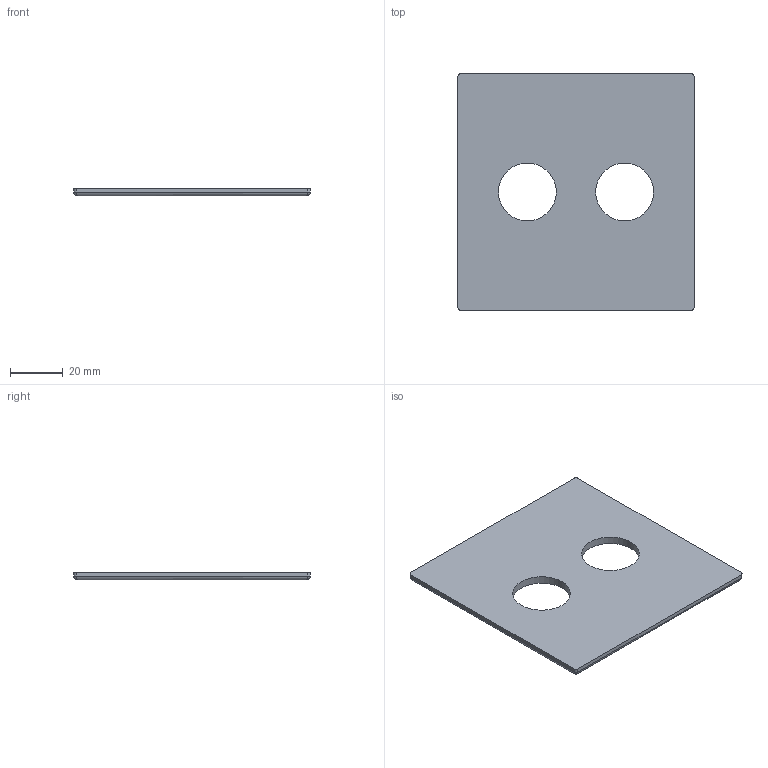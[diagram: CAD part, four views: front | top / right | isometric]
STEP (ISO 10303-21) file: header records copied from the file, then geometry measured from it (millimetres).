
FILE_DESCRIPTION((''),'2;1');
FILE_NAME('C:\Documents and Settings\Administrator\My Documents\Andys Backup Data\ANDY''S INVENTOR\INVENTOR LIBRARIES\MINITEC INVENTOR LIBRARIES\COMPONENTS LB\28.0095_1 END CAP LB 90 GRAY.stp','2009-02-25T09:57:56',('Administrator'),(''),'Autodesk Inventor 2009','Autodesk Inventor 2009','');
FILE_SCHEMA(('AUTOMOTIVE_DESIGN { 1 0 10303 214 1 1 1 1 }'));
Length unit declared in the file: millimetre
Products named in the file (1): 28.0095_1 END CAP LB 90 GRAY
Bounding box: 90 x 90 x 3 mm (x, y, z)
Volume: 21844.5 mm3; surface area: 15935.4 mm2
Topology: 1 solids, 1 shells, 20 faces, 46 edges, 24 vertices
Faces by surface type: cylinder 10, plane 6, bspline 4
Full cylindrical faces by diameter (mm): 22 x2
Entity records: 794 total; most frequent: CARTESIAN_POINT 337, DIRECTION 94, ORIENTED_EDGE 80, EDGE_CURVE 40, AXIS2_PLACEMENT_3D 37, EDGE_LOOP 26, VERTEX_POINT 24, FACE_OUTER_BOUND 20
